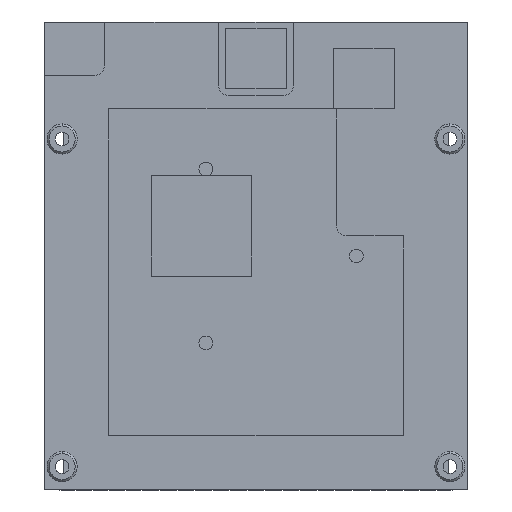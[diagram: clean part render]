
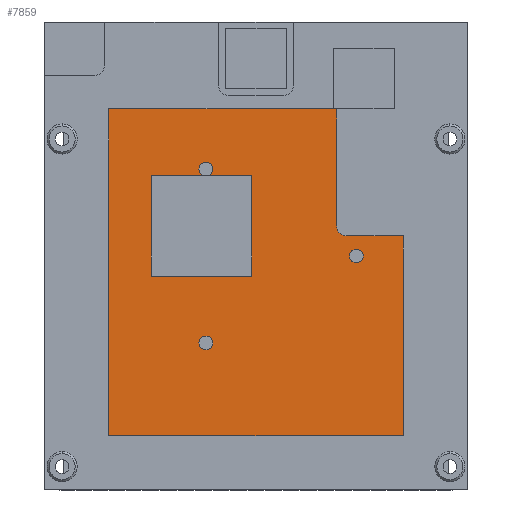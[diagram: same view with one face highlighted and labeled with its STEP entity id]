
A CAD part, front view. The second image highlights one B-rep face of the part: STEP entity #7859.
In plain terms, the highlighted planar face has unit normal (0, -1, 0).
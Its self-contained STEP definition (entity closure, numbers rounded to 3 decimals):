
#196 = VERTEX_POINT ( 'NONE', #1993 ) ;
#385 = DIRECTION ( 'NONE',  ( 0., 0., 1. ) ) ;
#491 = CIRCLE ( 'NONE', #14093, 1.025 ) ;
#544 = DIRECTION ( 'NONE',  ( 0., 1., 0. ) ) ;
#546 = CARTESIAN_POINT ( 'NONE',  ( -7.506, -2.15, 13. ) ) ;
#739 = VECTOR ( 'NONE', #12946, 1000. ) ;
#1104 = DIRECTION ( 'NONE',  ( 1., 0., 0. ) ) ;
#1182 = AXIS2_PLACEMENT_3D ( 'NONE', #19278, #10406, #1483 ) ;
#1235 = DIRECTION ( 'NONE',  ( 0., 0., 1. ) ) ;
#1483 = DIRECTION ( 'NONE',  ( 0., 0., 1. ) ) ;
#1532 = EDGE_CURVE ( 'NONE', #9346, #14270, #7734, .T. ) ;
#1908 = VERTEX_POINT ( 'NONE', #16342 ) ;
#1993 = CARTESIAN_POINT ( 'NONE',  ( -7.506, -2.15, -14.025 ) ) ;
#2187 = CARTESIAN_POINT ( 'NONE',  ( -7.506, -2.15, -11.975 ) ) ;
#2208 = VERTEX_POINT ( 'NONE', #7507 ) ;
#2245 = CARTESIAN_POINT ( 'NONE',  ( -7.506, -2.15, -13. ) ) ;
#2493 = DIRECTION ( 'NONE',  ( -1., 0., 0. ) ) ;
#2624 = ORIENTED_EDGE ( 'NONE', *, *, #12114, .T. ) ;
#2627 = EDGE_LOOP ( 'NONE', ( #9398, #17779 ) ) ;
#2669 = AXIS2_PLACEMENT_3D ( 'NONE', #19040, #10166, #1235 ) ;
#2747 = LINE ( 'NONE', #7407, #10196 ) ;
#2777 = FACE_OUTER_BOUND ( 'NONE', #14937, .T. ) ;
#2791 = EDGE_CURVE ( 'NONE', #7285, #7363, #491, .T. ) ;
#3134 = DIRECTION ( 'NONE',  ( 0., 1., 0. ) ) ;
#3203 = DIRECTION ( 'NONE',  ( 0., -1., 0. ) ) ;
#3224 = DIRECTION ( 'NONE',  ( 0., 1., 0. ) ) ;
#3746 = DIRECTION ( 'NONE',  ( 0., 0., 1. ) ) ;
#3905 = CIRCLE ( 'NONE', #19055, 1.025 ) ;
#4107 = VECTOR ( 'NONE', #18271, 1000. ) ;
#4709 = CARTESIAN_POINT ( 'NONE',  ( -7.506, -2.15, 11.975 ) ) ;
#4808 = CIRCLE ( 'NONE', #13942, 1.025 ) ;
#5328 = CIRCLE ( 'NONE', #17083, 1.5 ) ;
#5538 = EDGE_CURVE ( 'NONE', #1908, #16231, #9582, .T. ) ;
#5701 = LINE ( 'NONE', #11389, #17994 ) ;
#5914 = PLANE ( 'NONE',  #1182 ) ;
#5941 = CIRCLE ( 'NONE', #9739, 1.025 ) ;
#5996 = CARTESIAN_POINT ( 'NONE',  ( 22.05, -2.15, -26.9 ) ) ;
#6533 = VERTEX_POINT ( 'NONE', #17210 ) ;
#6992 = CARTESIAN_POINT ( 'NONE',  ( 13.55, -2.15, 3. ) ) ;
#7004 = EDGE_CURVE ( 'NONE', #196, #8599, #9564, .T. ) ;
#7272 = ORIENTED_EDGE ( 'NONE', *, *, #11272, .F. ) ;
#7285 = VERTEX_POINT ( 'NONE', #4709 ) ;
#7363 = VERTEX_POINT ( 'NONE', #16841 ) ;
#7407 = CARTESIAN_POINT ( 'NONE',  ( -22.05, -2.15, 4.5 ) ) ;
#7507 = CARTESIAN_POINT ( 'NONE',  ( 15.011, -2.15, 1.025 ) ) ;
#7734 = LINE ( 'NONE', #12860, #739 ) ;
#7820 = DIRECTION ( 'NONE',  ( 0., 1., 0. ) ) ;
#7859 = ADVANCED_FACE ( 'NONE', ( #2777, #18570, #18094, #14166 ), #5914, .F. ) ;
#7918 = CARTESIAN_POINT ( 'NONE',  ( 13.55, -2.15, 22. ) ) ;
#8093 = DIRECTION ( 'NONE',  ( 0., 0., -1. ) ) ;
#8350 = CIRCLE ( 'NONE', #2669, 1.025 ) ;
#8550 = EDGE_LOOP ( 'NONE', ( #11917, #17973 ) ) ;
#8592 = CARTESIAN_POINT ( 'NONE',  ( -22.05, -2.15, -26.9 ) ) ;
#8599 = VERTEX_POINT ( 'NONE', #2187 ) ;
#8780 = VERTEX_POINT ( 'NONE', #8592 ) ;
#8886 = DIRECTION ( 'NONE',  ( 0., 0., 1. ) ) ;
#9346 = VERTEX_POINT ( 'NONE', #12563 ) ;
#9398 = ORIENTED_EDGE ( 'NONE', *, *, #15468, .T. ) ;
#9564 = CIRCLE ( 'NONE', #10294, 1.025 ) ;
#9582 = LINE ( 'NONE', #11002, #16038 ) ;
#9739 = AXIS2_PLACEMENT_3D ( 'NONE', #12034, #3134, #13504 ) ;
#10166 = DIRECTION ( 'NONE',  ( 0., 1., 0. ) ) ;
#10196 = VECTOR ( 'NONE', #8886, 1000. ) ;
#10294 = AXIS2_PLACEMENT_3D ( 'NONE', #2245, #12664, #3746 ) ;
#10406 = DIRECTION ( 'NONE',  ( 0., 1., 0. ) ) ;
#10981 = EDGE_CURVE ( 'NONE', #14880, #1908, #15464, .T. ) ;
#11002 = CARTESIAN_POINT ( 'NONE',  ( 12.05, -2.15, 4.5 ) ) ;
#11125 = CARTESIAN_POINT ( 'NONE',  ( 15.011, -2.15, -1.025 ) ) ;
#11158 = ORIENTED_EDGE ( 'NONE', *, *, #11725, .F. ) ;
#11272 = EDGE_CURVE ( 'NONE', #6533, #9346, #15691, .T. ) ;
#11389 = CARTESIAN_POINT ( 'NONE',  ( 13.55, -2.15, -26.9 ) ) ;
#11464 = EDGE_CURVE ( 'NONE', #2208, #17666, #5941, .T. ) ;
#11725 = EDGE_CURVE ( 'NONE', #14270, #8780, #5701, .T. ) ;
#11917 = ORIENTED_EDGE ( 'NONE', *, *, #14091, .T. ) ;
#12034 = CARTESIAN_POINT ( 'NONE',  ( 15.011, -2.15, 0. ) ) ;
#12103 = CARTESIAN_POINT ( 'NONE',  ( 13.55, -2.15, 4.5 ) ) ;
#12114 = EDGE_CURVE ( 'NONE', #17666, #2208, #4808, .T. ) ;
#12124 = CARTESIAN_POINT ( 'NONE',  ( -7.506, -2.15, 13. ) ) ;
#12554 = EDGE_LOOP ( 'NONE', ( #16182, #2624 ) ) ;
#12563 = CARTESIAN_POINT ( 'NONE',  ( 22.05, -2.15, 3. ) ) ;
#12664 = DIRECTION ( 'NONE',  ( 0., 1., 0. ) ) ;
#12860 = CARTESIAN_POINT ( 'NONE',  ( 22.05, -2.15, 4.5 ) ) ;
#12946 = DIRECTION ( 'NONE',  ( 0., 0., -1. ) ) ;
#13358 = EDGE_CURVE ( 'NONE', #16231, #6533, #5328, .T. ) ;
#13470 = CARTESIAN_POINT ( 'NONE',  ( 12.05, -2.15, 4.5 ) ) ;
#13504 = DIRECTION ( 'NONE',  ( 0., 0., 1. ) ) ;
#13579 = DIRECTION ( 'NONE',  ( 0., 0., 1. ) ) ;
#13599 = DIRECTION ( 'NONE',  ( 0., 0., 1. ) ) ;
#13942 = AXIS2_PLACEMENT_3D ( 'NONE', #16665, #7820, #18163 ) ;
#14091 = EDGE_CURVE ( 'NONE', #8599, #196, #8350, .T. ) ;
#14093 = AXIS2_PLACEMENT_3D ( 'NONE', #546, #544, #385 ) ;
#14166 = FACE_BOUND ( 'NONE', #8550, .T. ) ;
#14255 = ORIENTED_EDGE ( 'NONE', *, *, #5538, .F. ) ;
#14267 = ORIENTED_EDGE ( 'NONE', *, *, #17885, .F. ) ;
#14270 = VERTEX_POINT ( 'NONE', #5996 ) ;
#14400 = ORIENTED_EDGE ( 'NONE', *, *, #13358, .F. ) ;
#14880 = VERTEX_POINT ( 'NONE', #16806 ) ;
#14937 = EDGE_LOOP ( 'NONE', ( #7272, #14400, #14255, #18212, #14267, #11158, #15088 ) ) ;
#15088 = ORIENTED_EDGE ( 'NONE', *, *, #1532, .F. ) ;
#15230 = VECTOR ( 'NONE', #1104, 1000. ) ;
#15464 = LINE ( 'NONE', #7918, #4107 ) ;
#15468 = EDGE_CURVE ( 'NONE', #7363, #7285, #3905, .T. ) ;
#15691 = LINE ( 'NONE', #6992, #15230 ) ;
#16038 = VECTOR ( 'NONE', #8093, 1000. ) ;
#16182 = ORIENTED_EDGE ( 'NONE', *, *, #11464, .T. ) ;
#16231 = VERTEX_POINT ( 'NONE', #13470 ) ;
#16342 = CARTESIAN_POINT ( 'NONE',  ( 12.05, -2.15, 22. ) ) ;
#16665 = CARTESIAN_POINT ( 'NONE',  ( 15.011, -2.15, 0. ) ) ;
#16806 = CARTESIAN_POINT ( 'NONE',  ( -22.05, -2.15, 22. ) ) ;
#16841 = CARTESIAN_POINT ( 'NONE',  ( -7.506, -2.15, 14.025 ) ) ;
#17083 = AXIS2_PLACEMENT_3D ( 'NONE', #12103, #3203, #13579 ) ;
#17210 = CARTESIAN_POINT ( 'NONE',  ( 13.55, -2.15, 3. ) ) ;
#17666 = VERTEX_POINT ( 'NONE', #11125 ) ;
#17779 = ORIENTED_EDGE ( 'NONE', *, *, #2791, .T. ) ;
#17885 = EDGE_CURVE ( 'NONE', #8780, #14880, #2747, .T. ) ;
#17973 = ORIENTED_EDGE ( 'NONE', *, *, #7004, .T. ) ;
#17994 = VECTOR ( 'NONE', #2493, 1000. ) ;
#18094 = FACE_BOUND ( 'NONE', #12554, .T. ) ;
#18163 = DIRECTION ( 'NONE',  ( 0., 0., 1. ) ) ;
#18212 = ORIENTED_EDGE ( 'NONE', *, *, #10981, .F. ) ;
#18271 = DIRECTION ( 'NONE',  ( 1., 0., 0. ) ) ;
#18570 = FACE_BOUND ( 'NONE', #2627, .T. ) ;
#19040 = CARTESIAN_POINT ( 'NONE',  ( -7.506, -2.15, -13. ) ) ;
#19055 = AXIS2_PLACEMENT_3D ( 'NONE', #12124, #3224, #13599 ) ;
#19278 = CARTESIAN_POINT ( 'NONE',  ( 13.55, -2.15, 4.5 ) ) ;
